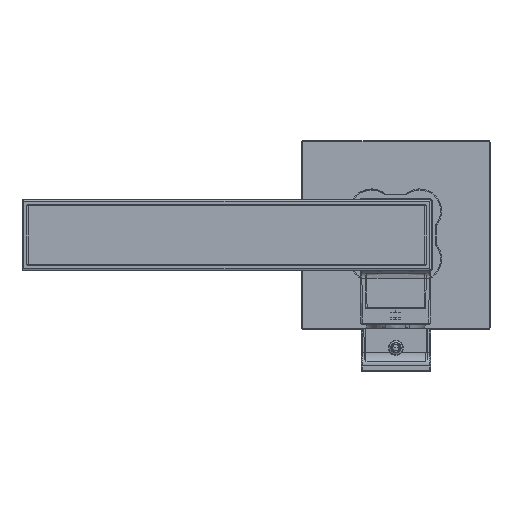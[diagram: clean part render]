
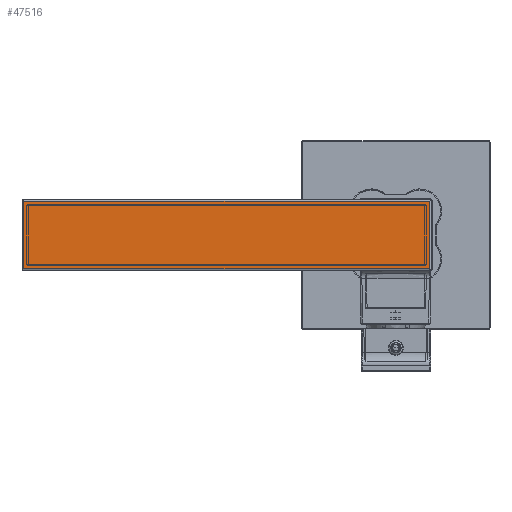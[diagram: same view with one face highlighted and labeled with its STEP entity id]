
A CAD part, front view. The second image highlights one B-rep face of the part: STEP entity #47516.
In plain terms, the highlighted planar face has unit normal (0, -1, 0).
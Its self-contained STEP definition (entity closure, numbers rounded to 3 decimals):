
#43795=DIRECTION('',(0.,0.,1.));
#43796=VECTOR('',#43795,43.);
#43797=CARTESIAN_POINT('',(21.5,-1120.3,-21.5));
#43798=LINE('',#43797,#43796);
#43799=DIRECTION('',(1.,0.,0.));
#43800=VECTOR('',#43799,258.);
#43801=CARTESIAN_POINT('',(-236.5,-1120.3,-21.5));
#43802=LINE('',#43801,#43800);
#43803=DIRECTION('',(0.,0.,-1.));
#43804=VECTOR('',#43803,43.);
#43805=CARTESIAN_POINT('',(-236.5,-1120.3,21.5));
#43806=LINE('',#43805,#43804);
#43807=DIRECTION('',(-1.,0.,0.));
#43808=VECTOR('',#43807,258.);
#43809=CARTESIAN_POINT('',(21.5,-1120.3,21.5));
#43810=LINE('',#43809,#43808);
#45626=CARTESIAN_POINT('',(21.5,-1120.3,-21.5));
#45627=CARTESIAN_POINT('',(21.5,-1120.3,21.5));
#45628=VERTEX_POINT('',#45626);
#45629=VERTEX_POINT('',#45627);
#45638=CARTESIAN_POINT('',(-236.5,-1120.3,21.5));
#45639=VERTEX_POINT('',#45638);
#45644=CARTESIAN_POINT('',(-236.5,-1120.3,-21.5));
#45645=VERTEX_POINT('',#45644);
#47503=CARTESIAN_POINT('',(0.,-1120.3,0.));
#47504=DIRECTION('',(0.,-1.,0.));
#47505=DIRECTION('',(0.,0.,-1.));
#47506=AXIS2_PLACEMENT_3D('',#47503,#47504,#47505);
#47507=PLANE('',#47506);
#47508=ORIENTED_EDGE('',*,*,#47494,.F.);
#47510=ORIENTED_EDGE('',*,*,#47509,.F.);
#47512=ORIENTED_EDGE('',*,*,#47511,.F.);
#47513=ORIENTED_EDGE('',*,*,#47382,.F.);
#47514=EDGE_LOOP('',(#47508,#47510,#47512,#47513));
#47515=FACE_OUTER_BOUND('',#47514,.F.);
#47516=ADVANCED_FACE('',(#47515),#47507,.T.);
#47382=EDGE_CURVE('',#45629,#45639,#43810,.T.);
#47494=EDGE_CURVE('',#45628,#45629,#43798,.T.);
#47509=EDGE_CURVE('',#45645,#45628,#43802,.T.);
#47511=EDGE_CURVE('',#45639,#45645,#43806,.T.);
